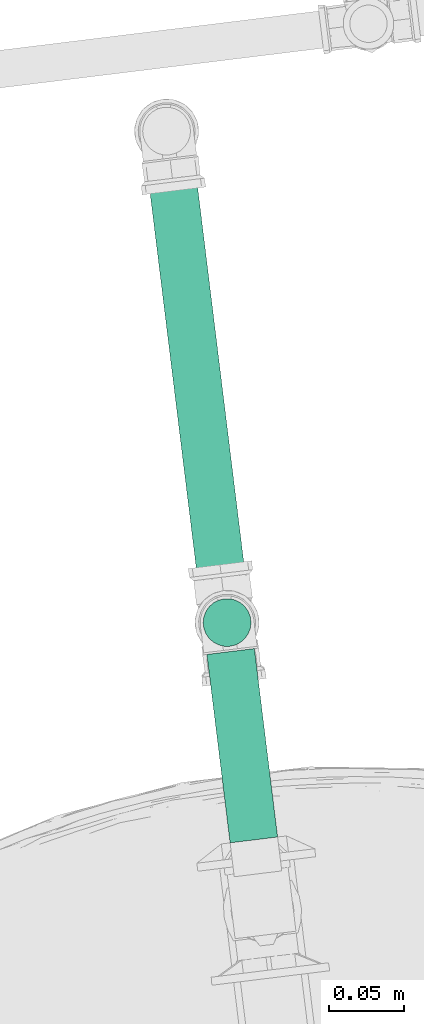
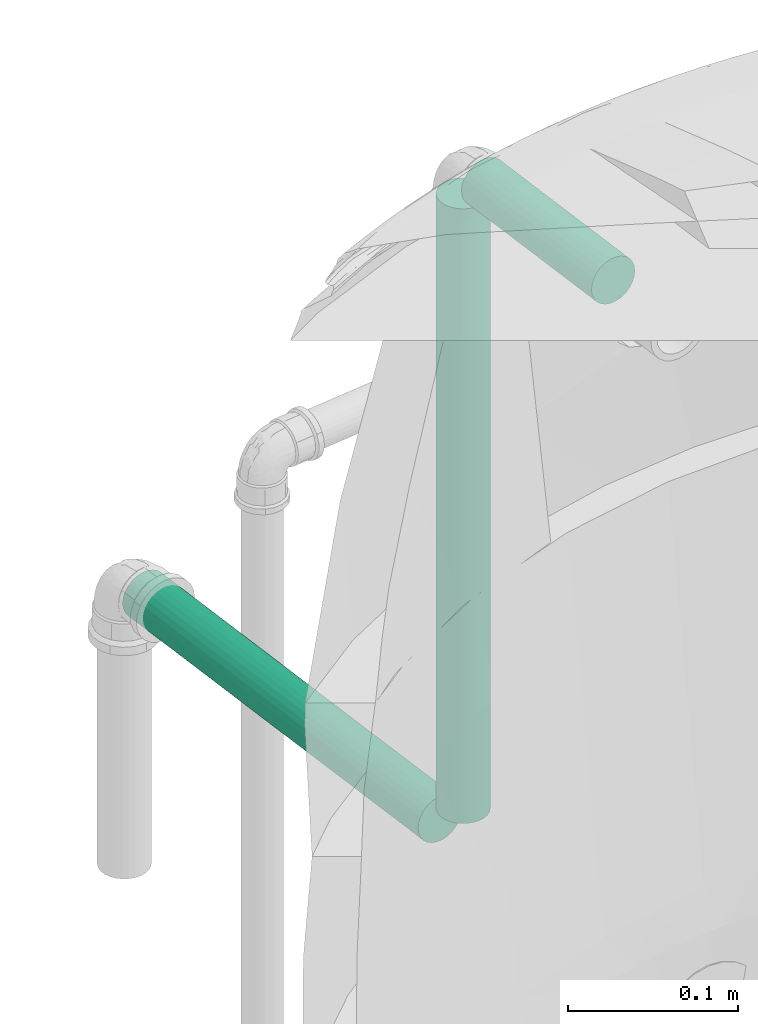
# One storey, part 54 of 97: 3 flow segments.
"""IFC2X3 building model written with IfcOpenShell, lengths in centimetres."""

from ifc_helpers import new_model, entity, si_unit, converted_unit, derived_unit, direction, frame, frame_2d, origin, origin_2d_with_axis, place, context, subcontext, project, spatial, circle, extrude, type_object, element, save


model = new_model("IFC2X3")

# Units and contexts
model_context = context("Model", 3, precision=0.001, world=origin(), true_north=direction((6.12303176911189e-17, 1.0)))
body_context = subcontext(model_context, "Body", "Model", "MODEL_VIEW")
ifc_project = project(units=[si_unit("LENGTHUNIT", "METRE", prefix="CENTI"), si_unit("AREAUNIT", "SQUARE_METRE"), si_unit("VOLUMEUNIT", "CUBIC_METRE"), converted_unit("PLANEANGLEUNIT", "DEGREE", entity("IfcRatioMeasure", 0.0174532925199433), si_unit("PLANEANGLEUNIT", "RADIAN"), dimensions=[0, 0, 0, 0, 0, 0, 0]), si_unit("MASSUNIT", "GRAM", prefix="KILO"), derived_unit("MASSDENSITYUNIT", [(si_unit("MASSUNIT", "GRAM", prefix="KILO"), 1), (si_unit("LENGTHUNIT", "METRE"), -3)]), derived_unit("MOMENTOFINERTIAUNIT", [(si_unit("LENGTHUNIT", "METRE"), 4)]), si_unit("TIMEUNIT", "SECOND"), si_unit("FREQUENCYUNIT", "HERTZ"), si_unit("THERMODYNAMICTEMPERATUREUNIT", "DEGREE_CELSIUS"), derived_unit("THERMALTRANSMITTANCEUNIT", [(si_unit("MASSUNIT", "GRAM", prefix="KILO"), 1), (si_unit("THERMODYNAMICTEMPERATUREUNIT", "KELVIN"), -1), (si_unit("TIMEUNIT", "SECOND"), -3)]), derived_unit("VOLUMETRICFLOWRATEUNIT", [(si_unit("LENGTHUNIT", "METRE"), 3), (si_unit("TIMEUNIT", "SECOND"), -1)]), si_unit("ELECTRICCURRENTUNIT", "AMPERE"), si_unit("ELECTRICVOLTAGEUNIT", "VOLT"), si_unit("POWERUNIT", "WATT"), si_unit("FORCEUNIT", "NEWTON", prefix="KILO"), si_unit("ILLUMINANCEUNIT", "LUX"), si_unit("LUMINOUSFLUXUNIT", "LUMEN"), si_unit("LUMINOUSINTENSITYUNIT", "CANDELA"), derived_unit("USERDEFINED", [(si_unit("MASSUNIT", "GRAM", prefix="KILO"), -1), (si_unit("LENGTHUNIT", "METRE"), -2), (si_unit("TIMEUNIT", "SECOND"), 3), (si_unit("LUMINOUSFLUXUNIT", "LUMEN"), 1)]), derived_unit("LINEARVELOCITYUNIT", [(si_unit("LENGTHUNIT", "METRE"), 1), (si_unit("TIMEUNIT", "SECOND"), -1)]), si_unit("PRESSUREUNIT", "PASCAL"), derived_unit("USERDEFINED", [(si_unit("LENGTHUNIT", "METRE"), -2), (si_unit("MASSUNIT", "GRAM", prefix="KILO"), 1), (si_unit("TIMEUNIT", "SECOND"), -2)]), derived_unit("LINEARFORCEUNIT", [(si_unit("MASSUNIT", "GRAM", prefix="KILO"), 1), (si_unit("LENGTHUNIT", "METRE"), 1), (si_unit("TIMEUNIT", "SECOND"), -2), (si_unit("LENGTHUNIT", "METRE"), -1)]), derived_unit("PLANARFORCEUNIT", [(si_unit("MASSUNIT", "GRAM", prefix="KILO"), 1), (si_unit("LENGTHUNIT", "METRE"), 1), (si_unit("TIMEUNIT", "SECOND"), -2), (si_unit("LENGTHUNIT", "METRE"), -2)])], contexts=[model_context])

# Site, building, storey
site_placement = place(None, origin())
site = spatial("IfcSite", under=ifc_project, at=site_placement, Name="Default", CompositionType="ELEMENT")
building_placement = place(site_placement, origin())
building = spatial("IfcBuilding", under=site, at=building_placement, Name="HIDROSSANITÁRIO", CompositionType="ELEMENT")
storey_placement = place(building_placement, frame((0.0, 0.0, -260.0)))
storey = spatial("IfcBuildingStorey", under=building, at=storey_placement, Name="TÉRREO-HID", CompositionType="ELEMENT", Elevation=-260.0)

# Flow segments
pipe_segment_type = type_object("IfcPipeSegmentType", Name="Tipos de tubos:Tubo Marrom - Água Fria - Soldável", PredefinedType="NOTDEFINED")
flow_segment_1_placement = place(storey_placement, origin())
element("IfcFlowSegment", 1, at=flow_segment_1_placement, inside=storey, type_object=pipe_segment_type, Name="Tipos de tubos:Tubo Marrom - Água Fria - Soldável", ObjectType="Tipos de tubos:Tubo Marrom - Água Fria - Soldável", context=body_context, shape_type="SweptSolid", body=[
    extrude(circle(Radius=1.6, at=frame_2d((9.19633646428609e-43, 1.35358391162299e-14), x_axis=(1.0, 0.0))), frame((-1664.27881892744, 3110.20856941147, 325.5), z_axis=(0.122152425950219, -0.992511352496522, 0.0), x_axis=(0.992511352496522, 0.122152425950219, 0.0)), (0.0, 0.0, 1.0), 12.6924295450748),
])
flow_segment_2_placement = place(storey_placement, origin())
element("IfcFlowSegment", 2, at=flow_segment_2_placement, inside=storey, type_object=pipe_segment_type, Name="Tipos de tubos:Tubo Marrom - Água Fria - Soldável", ObjectType="Tipos de tubos:Tubo Marrom - Água Fria - Soldável", context=body_context, shape_type="SweptSolid", body=[
    extrude(circle(Radius=1.6, at=frame_2d((0.0, -4.33146851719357e-13), x_axis=(1.0, 0.0))), frame((-1664.51701615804, 3112.14396654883, 279.428627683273), z_axis=(0.0, 0.0, 1.0), x_axis=(-1.0, 0.0, 0.0)), (0.0, 0.0, 1.0), 44.1213723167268),
])
flow_segment_3_placement = place(storey_placement, origin())
element("IfcFlowSegment", 3, at=flow_segment_3_placement, inside=storey, type_object=pipe_segment_type, Name="Tipos de tubos:Tubo Marrom - Água Fria - Soldável", ObjectType="Tipos de tubos:Tubo Marrom - Água Fria - Soldável", context=body_context, shape_type="SweptSolid", body=[
    extrude(circle(Radius=1.6, at=origin_2d_with_axis()), frame((-1664.79674521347, 3114.41681754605, 277.388627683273), z_axis=(-0.122167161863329, 0.992509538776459, 0.0), x_axis=(-0.992509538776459, -0.122167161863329, 0.0)), (0.0, 0.0, 1.0), 28.8624295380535),
])

save(model, "model.ifc")
